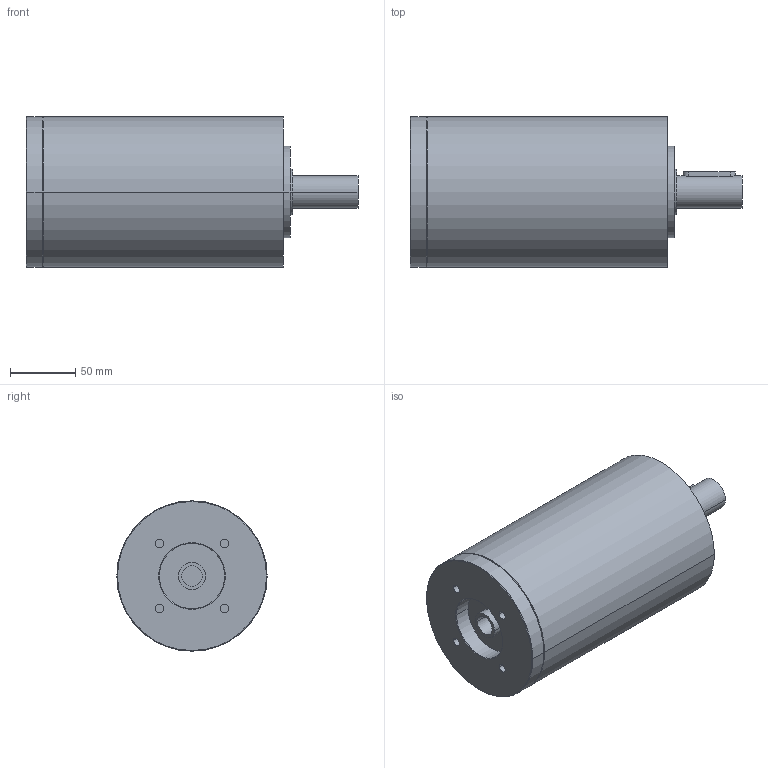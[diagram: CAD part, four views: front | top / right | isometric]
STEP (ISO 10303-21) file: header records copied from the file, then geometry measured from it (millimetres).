
FILE_DESCRIPTION(('CoCreate Modeling STEP Export'),'2;1');
FILE_NAME('GPR125_ig-48-64-80-100-140-196-245-343_25_B14_15.87_P14.stp','2014-08-26T14:21:10',(''),(''),'CoCreate Modeling STEP processor for AP214 (Solid Model)','CoCreate Modeling 16.00C 25-Feb-2009 (C) Parametric Technology GmbH','');
FILE_SCHEMA(('AUTOMOTIVE_DESIGN { 1 0 10303 214 1 1 1 1 }'));
Length unit declared in the file: millimetre
Products named in the file (2): GPR125_ig-48-64-80-100-140-196-245-343_25_B14_15.87_P14
Assembly tree (1 placements, depth 2):
  GPR125_ig-48-64-80-100-140-196-245-343_25_B14_15.87_P14
    GPR125_ig-48-64-80-100-140-196-245-343_25_B14_15.87_P14
Bounding box: 254 x 115 x 115 mm (x, y, z)
Volume: 2054075.7 mm3; surface area: 106353 mm2
Topology: 1 solids, 1 shells, 78 faces, 190 edges, 132 vertices
Faces by surface type: cylinder 44, plane 24, cone 10
Entity records: 1945 total; most frequent: ORIENTED_EDGE 376, CARTESIAN_POINT 358, DIRECTION 256, EDGE_CURVE 188, VERTEX_POINT 132, AXIS2_PLACEMENT_3D 98, EDGE_LOOP 98, FACE_OUTER_BOUND 78
